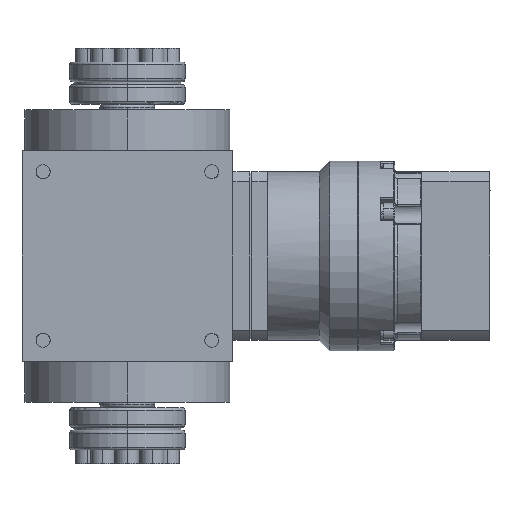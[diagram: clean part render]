
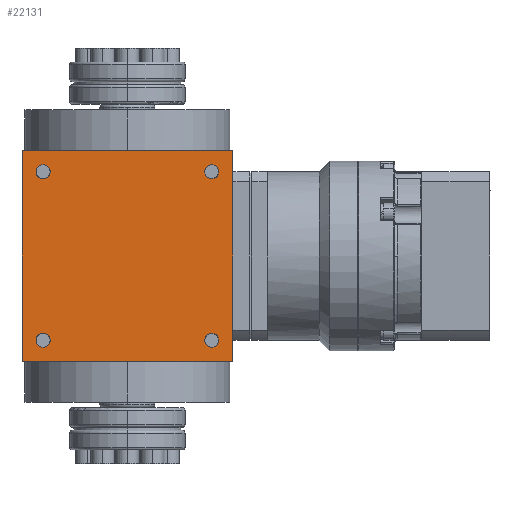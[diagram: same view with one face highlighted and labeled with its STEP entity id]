
A CAD part, left-side view. The second image highlights one B-rep face of the part: STEP entity #22131.
In plain terms, the highlighted planar face has unit normal (-1, 0, 0).
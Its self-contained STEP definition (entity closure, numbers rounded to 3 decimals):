
#71 = VECTOR ( 'NONE', #12375, 1000. ) ;
#655 = DIRECTION ( 'NONE',  ( 0., 0., 1. ) ) ;
#1087 = CARTESIAN_POINT ( 'NONE',  ( -37.5, -37.5, -37.5 ) ) ;
#1523 = CARTESIAN_POINT ( 'NONE',  ( -37.5, 30., -30. ) ) ;
#1669 = CARTESIAN_POINT ( 'NONE',  ( -37.5, -30., 30. ) ) ;
#1676 = CARTESIAN_POINT ( 'NONE',  ( -37.5, -30., -27.5 ) ) ;
#1985 = LINE ( 'NONE', #1087, #39037 ) ;
#3336 = FACE_BOUND ( 'NONE', #24124, .T. ) ;
#4966 = CIRCLE ( 'NONE', #13533, 2.5 ) ;
#5008 = VERTEX_POINT ( 'NONE', #10898 ) ;
#5364 = DIRECTION ( 'NONE',  ( 1., 0., 0. ) ) ;
#5449 = CARTESIAN_POINT ( 'NONE',  ( -37.5, 37.5, -37.5 ) ) ;
#5824 = FACE_BOUND ( 'NONE', #30408, .T. ) ;
#6907 = CIRCLE ( 'NONE', #29812, 2.5 ) ;
#6975 = CIRCLE ( 'NONE', #24960, 2.5 ) ;
#6997 = ORIENTED_EDGE ( 'NONE', *, *, #39213, .T. ) ;
#8542 = ORIENTED_EDGE ( 'NONE', *, *, #34040, .F. ) ;
#8923 = CARTESIAN_POINT ( 'NONE',  ( -37.5, 37.5, -37.5 ) ) ;
#9835 = FACE_OUTER_BOUND ( 'NONE', #18444, .T. ) ;
#10113 = CARTESIAN_POINT ( 'NONE',  ( -37.5, 30., 32.5 ) ) ;
#10427 = EDGE_CURVE ( 'NONE', #27588, #18699, #6975, .T. ) ;
#10898 = CARTESIAN_POINT ( 'NONE',  ( -37.5, -30., -32.5 ) ) ;
#11097 = EDGE_LOOP ( 'NONE', ( #23330, #43060 ) ) ;
#11985 = CARTESIAN_POINT ( 'NONE',  ( -37.5, -30., -30. ) ) ;
#11998 = VERTEX_POINT ( 'NONE', #37309 ) ;
#12228 = EDGE_CURVE ( 'NONE', #24241, #5008, #21430, .T. ) ;
#12375 = DIRECTION ( 'NONE',  ( 0., 0., 1. ) ) ;
#13533 = AXIS2_PLACEMENT_3D ( 'NONE', #17550, #13752, #14193 ) ;
#13752 = DIRECTION ( 'NONE',  ( 1., 0., 0. ) ) ;
#13777 = CARTESIAN_POINT ( 'NONE',  ( -37.5, -30., 27.5 ) ) ;
#13833 = LINE ( 'NONE', #42037, #14349 ) ;
#14193 = DIRECTION ( 'NONE',  ( 0., 0., 1. ) ) ;
#14349 = VECTOR ( 'NONE', #14511, 1000. ) ;
#14511 = DIRECTION ( 'NONE',  ( 0., -1., 0. ) ) ;
#15618 = DIRECTION ( 'NONE',  ( 0., 0., -1. ) ) ;
#15662 = CARTESIAN_POINT ( 'NONE',  ( -37.5, 37.5, 37.5 ) ) ;
#15864 = LINE ( 'NONE', #22578, #17617 ) ;
#16112 = DIRECTION ( 'NONE',  ( 0., -1., 0. ) ) ;
#17214 = VERTEX_POINT ( 'NONE', #22824 ) ;
#17546 = VERTEX_POINT ( 'NONE', #28383 ) ;
#17550 = CARTESIAN_POINT ( 'NONE',  ( -37.5, -30., 30. ) ) ;
#17586 = AXIS2_PLACEMENT_3D ( 'NONE', #21462, #35364, #655 ) ;
#17617 = VECTOR ( 'NONE', #22129, 1000. ) ;
#17848 = EDGE_LOOP ( 'NONE', ( #19342, #37928 ) ) ;
#18444 = EDGE_LOOP ( 'NONE', ( #38334, #38109, #8542, #22385 ) ) ;
#18699 = VERTEX_POINT ( 'NONE', #40650 ) ;
#18977 = CARTESIAN_POINT ( 'NONE',  ( -37.5, 30., 27.5 ) ) ;
#19342 = ORIENTED_EDGE ( 'NONE', *, *, #41398, .T. ) ;
#19461 = EDGE_CURVE ( 'NONE', #17214, #17546, #38558, .T. ) ;
#19567 = DIRECTION ( 'NONE',  ( 0., 0., 1. ) ) ;
#21430 = CIRCLE ( 'NONE', #34325, 2.5 ) ;
#21462 = CARTESIAN_POINT ( 'NONE',  ( -37.5, 30., -30. ) ) ;
#21725 = VERTEX_POINT ( 'NONE', #10113 ) ;
#21733 = CARTESIAN_POINT ( 'NONE',  ( -37.5, 30., 30. ) ) ;
#22129 = DIRECTION ( 'NONE',  ( 0., -1., 0. ) ) ;
#22131 = ADVANCED_FACE ( 'NONE', ( #3336, #40712, #5824, #30654, #9835 ), #29992, .T. ) ;
#22232 = EDGE_CURVE ( 'NONE', #39440, #35040, #13833, .T. ) ;
#22385 = ORIENTED_EDGE ( 'NONE', *, *, #22232, .T. ) ;
#22578 = CARTESIAN_POINT ( 'NONE',  ( -37.5, 0., 37.5 ) ) ;
#22824 = CARTESIAN_POINT ( 'NONE',  ( -37.5, 30., -27.5 ) ) ;
#23330 = ORIENTED_EDGE ( 'NONE', *, *, #12228, .T. ) ;
#24092 = CARTESIAN_POINT ( 'NONE',  ( -37.5, -30., -30. ) ) ;
#24124 = EDGE_LOOP ( 'NONE', ( #40352, #30740 ) ) ;
#24241 = VERTEX_POINT ( 'NONE', #1676 ) ;
#24310 = DIRECTION ( 'NONE',  ( 1., 0., 0. ) ) ;
#24960 = AXIS2_PLACEMENT_3D ( 'NONE', #1669, #37983, #35924 ) ;
#26903 = CIRCLE ( 'NONE', #17586, 2.5 ) ;
#27264 = EDGE_CURVE ( 'NONE', #11998, #35040, #1985, .T. ) ;
#27318 = AXIS2_PLACEMENT_3D ( 'NONE', #11985, #35962, #19567 ) ;
#27588 = VERTEX_POINT ( 'NONE', #13777 ) ;
#27928 = EDGE_CURVE ( 'NONE', #38056, #21725, #6907, .T. ) ;
#28383 = CARTESIAN_POINT ( 'NONE',  ( -37.5, 30., -32.5 ) ) ;
#29319 = CARTESIAN_POINT ( 'NONE',  ( -37.5, 30., 30. ) ) ;
#29812 = AXIS2_PLACEMENT_3D ( 'NONE', #21733, #35404, #38081 ) ;
#29992 = PLANE ( 'NONE',  #33679 ) ;
#30408 = EDGE_LOOP ( 'NONE', ( #32035, #6997 ) ) ;
#30654 = FACE_BOUND ( 'NONE', #17848, .T. ) ;
#30740 = ORIENTED_EDGE ( 'NONE', *, *, #27928, .T. ) ;
#31966 = DIRECTION ( 'NONE',  ( 1., 0., 0. ) ) ;
#32035 = ORIENTED_EDGE ( 'NONE', *, *, #19461, .T. ) ;
#32870 = AXIS2_PLACEMENT_3D ( 'NONE', #1523, #31966, #39114 ) ;
#33147 = AXIS2_PLACEMENT_3D ( 'NONE', #29319, #5364, #36258 ) ;
#33679 = AXIS2_PLACEMENT_3D ( 'NONE', #43848, #37367, #16112 ) ;
#34040 = EDGE_CURVE ( 'NONE', #39440, #37641, #36123, .T. ) ;
#34325 = AXIS2_PLACEMENT_3D ( 'NONE', #24092, #24310, #37959 ) ;
#34671 = EDGE_CURVE ( 'NONE', #21725, #38056, #36667, .T. ) ;
#35040 = VERTEX_POINT ( 'NONE', #42902 ) ;
#35364 = DIRECTION ( 'NONE',  ( 1., 0., 0. ) ) ;
#35404 = DIRECTION ( 'NONE',  ( 1., 0., 0. ) ) ;
#35924 = DIRECTION ( 'NONE',  ( 0., 0., 1. ) ) ;
#35962 = DIRECTION ( 'NONE',  ( 1., 0., 0. ) ) ;
#36123 = LINE ( 'NONE', #5449, #71 ) ;
#36258 = DIRECTION ( 'NONE',  ( 0., 0., 1. ) ) ;
#36667 = CIRCLE ( 'NONE', #33147, 2.5 ) ;
#37309 = CARTESIAN_POINT ( 'NONE',  ( -37.5, -37.5, 37.5 ) ) ;
#37367 = DIRECTION ( 'NONE',  ( -1., 0., 0. ) ) ;
#37641 = VERTEX_POINT ( 'NONE', #15662 ) ;
#37928 = ORIENTED_EDGE ( 'NONE', *, *, #10427, .T. ) ;
#37959 = DIRECTION ( 'NONE',  ( 0., 0., 1. ) ) ;
#37983 = DIRECTION ( 'NONE',  ( 1., 0., 0. ) ) ;
#38056 = VERTEX_POINT ( 'NONE', #18977 ) ;
#38081 = DIRECTION ( 'NONE',  ( 0., 0., 1. ) ) ;
#38109 = ORIENTED_EDGE ( 'NONE', *, *, #39445, .F. ) ;
#38334 = ORIENTED_EDGE ( 'NONE', *, *, #27264, .F. ) ;
#38558 = CIRCLE ( 'NONE', #32870, 2.5 ) ;
#39037 = VECTOR ( 'NONE', #15618, 1000. ) ;
#39114 = DIRECTION ( 'NONE',  ( 0., 0., 1. ) ) ;
#39213 = EDGE_CURVE ( 'NONE', #17546, #17214, #26903, .T. ) ;
#39440 = VERTEX_POINT ( 'NONE', #8923 ) ;
#39445 = EDGE_CURVE ( 'NONE', #37641, #11998, #15864, .T. ) ;
#40352 = ORIENTED_EDGE ( 'NONE', *, *, #34671, .T. ) ;
#40650 = CARTESIAN_POINT ( 'NONE',  ( -37.5, -30., 32.5 ) ) ;
#40712 = FACE_BOUND ( 'NONE', #11097, .T. ) ;
#40894 = CIRCLE ( 'NONE', #27318, 2.5 ) ;
#41398 = EDGE_CURVE ( 'NONE', #18699, #27588, #4966, .T. ) ;
#42037 = CARTESIAN_POINT ( 'NONE',  ( -37.5, 0., -37.5 ) ) ;
#42902 = CARTESIAN_POINT ( 'NONE',  ( -37.5, -37.5, -37.5 ) ) ;
#43060 = ORIENTED_EDGE ( 'NONE', *, *, #43933, .T. ) ;
#43848 = CARTESIAN_POINT ( 'NONE',  ( -37.5, 37.5, -37.5 ) ) ;
#43933 = EDGE_CURVE ( 'NONE', #5008, #24241, #40894, .T. ) ;
